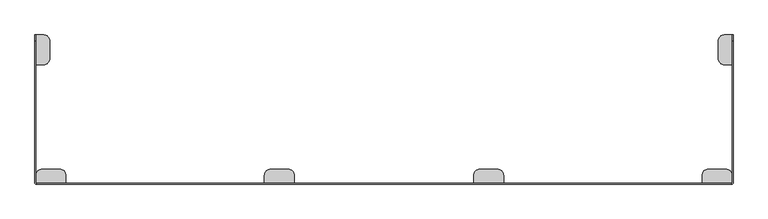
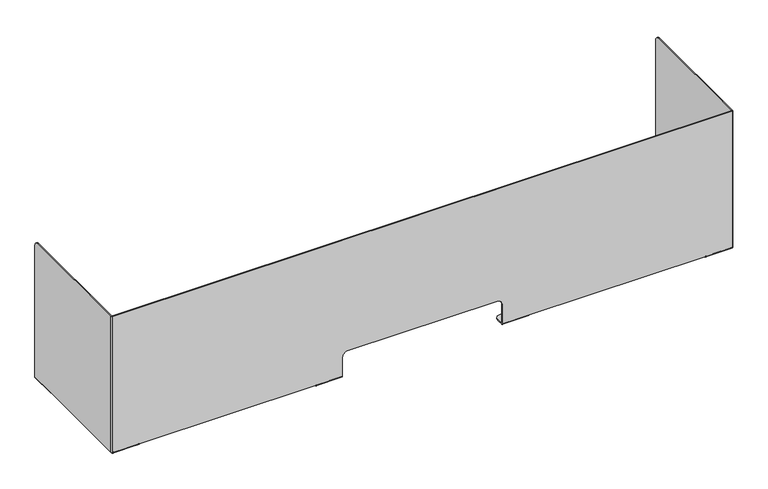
"""IFC4 building model written with IfcOpenShell, lengths in millimetres: furniture geometry, Geiger_GeigerOneCasegoods_DesktopMetalPrivacyScreenSideCapsBothEnds : 70.125Wx15Dx15.75H."""

from ifc_helpers import new_model, si_unit, frame, origin, place, context, project, spatial, polyline, circle_curve, source, transform, mapped, element, save
from ifc_brep_helpers import plane_surface, cylinder_surface, revolved_surface, advanced_brep


def furniture_1481e5b9(model_context):
    return source(origin(), model_context, "Body", "AdvancedBrep", [
        advanced_brep(
        [(78.8, 2.0, 2.81), (78.8, 0.0, 2.81), (78.8, 2.794, 0.0), (78.8, 22.125, 0.0), (78.8, 22.125, 2.0), (78.8, 2.889, 2.0), (2.8, 6.4e-06, 2.81), (2.8, 2.0044662, 2.81), (2.8, 2.889, 2.0), (2.8, 22.1306507, 2.0), (2.8, 22.1306507, 0.0), (2.8, 2.794, 0.0), (18.6693493, 38.0, 0.0), (62.925, 38.0, 0.0), (62.925, 38.0, 2.0), (18.6693493, 38.0, 2.0), (2.8, 0.0, 415.41), (2.8, 2.0, 415.41), (2.0, 2.889, 415.41), (2.0, 364.0, 415.41), (0.0, 364.0, 415.41), (0.0, 2.794, 415.41), (1776.2, 2.0, 415.41), (1776.2, 0.0, 415.41), (1779.0, 2.794, 415.41), (1779.0, 364.0, 415.41), (1777.0, 364.0, 415.41), (1777.0, 2.889, 415.41), (0.0, 2.794, 2.81), (0.0, 304.0, 2.81), (2.0, 304.0, 2.81), (2.0, 2.889, 2.81), (1776.2, 6.4e-06, 2.81), (1776.2, 2.0044662, 2.81), (1777.0, 2.889, 2.81), (1777.0, 304.0, 2.81), (1779.0, 304.0, 2.81), (1779.0, 2.794, 2.81), (585.0, 2.0, 2.81), (585.0, 0.0, 2.81), (1194.0, 2.0, 2.81), (1700.2, 2.0, 2.81), (1700.2, 0.0, 2.81), (1194.0, 0.0, 2.81), (1102.125, 0.0, 76.11), (1118.0, 0.0, 60.235), (1118.0, 0.0, 2.81), (1776.2, 0.0, 415.81), (2.8, 0.0, 415.81), (661.0, 0.0, 2.794), (661.0, 0.0, 60.235), (676.875, 0.0, 76.11), (0.0, 380.0, 399.41), (0.0, 380.0, 2.81), (22.1306507, 380.0, 0.0), (2.794, 380.0, 0.0), (2.0, 380.0, 399.41), (2.0, 380.0, 2.81), (2.889, 380.0, 2.0), (22.1306507, 380.0, 2.0), (676.875, 2.0, 76.11), (661.0, 2.0, 60.235), (661.0, 2.0, 2.81), (2.8, 2.0, 415.81), (1776.2, 2.0, 415.81), (1118.0, 2.0, 2.889), (1118.0, 2.0, 60.235), (1102.125, 2.0, 76.11), (1777.0, 380.0, 399.41), (1777.0, 380.0, 2.81), (1779.0, 380.0, 399.41), (1779.0, 380.0, 2.81), (1776.206, 380.0, 0.0), (1756.8693493, 380.0, 0.0), (1756.8693493, 380.0, 2.0), (1776.111, 380.0, 2.0), (1118.0, 2.889, 2.0), (1118.0, 22.125, 2.0), (1118.0, 22.125, 0.0), (1118.0, 2.794, 0.0), (661.0, 2.794, 0.0), (661.0, 22.125, 0.0), (661.0, 22.125, 2.0), (661.0, 2.889, 2.0), (2.889, 304.0, 2.0), (22.125, 304.0, 2.0), (38.0, 319.875, 2.0), (38.0, 364.1306507, 2.0), (22.125, 304.0, 0.0), (2.794, 304.0, 0.0), (38.0, 364.1306507, 0.0), (38.0, 319.875, 0.0), (585.0, 2.889, 2.0), (585.0, 22.1306507, 2.0), (585.0, 22.1306507, 0.0), (585.0, 2.794, 0.0), (600.8693493, 38.0, 0.0), (645.125, 38.0, 0.0), (645.125, 38.0, 2.0), (600.8693493, 38.0, 2.0), (1194.0, 2.794, 0.0), (1194.0, 22.1306507, 0.0), (1194.0, 22.1306507, 2.0), (1194.0, 2.889, 2.0), (1133.875, 38.0, 0.0), (1178.1306507, 38.0, 0.0), (1178.1306507, 38.0, 2.0), (1133.875, 38.0, 2.0), (1700.2, 2.889, 2.0), (1700.2, 22.125, 2.0), (1700.2, 22.125, 0.0), (1700.2, 2.794, 0.0), (1776.2, 2.794, 0.0), (1776.2, 22.1306507, 0.0), (1776.2, 22.1306507, 2.0), (1776.2, 2.889, 2.0), (1716.075, 38.0, 0.0), (1760.3306507, 38.0, 0.0), (1760.3306507, 38.0, 2.0), (1716.075, 38.0, 2.0), (1776.111, 304.0, 2.0), (1756.875, 304.0, 2.0), (1756.875, 304.0, 0.0), (1776.206, 304.0, 0.0), (1741.0, 319.875, 0.0), (1741.0, 364.1306507, 0.0), (1741.0, 364.1306507, 2.0), (1741.0, 319.875, 2.0)],
        [
            (0, 1),
            (1, 2, circle_curve(frame((78.8, 2.794, 2.794), z_axis=(1.0, 0.0, 0.0), x_axis=(0.0, -1.0, 0.0)), 2.794)),
            (2, 3),
            (3, 4),
            (4, 5),
            (5, 0, circle_curve(frame((78.8, 2.889, 2.889), z_axis=(-1.0, 0.0, 0.0), x_axis=(0.0, -1.0, 0.0)), 0.889)),
            (6, 7),
            (7, 8, circle_curve(frame((2.8, 2.889, 2.889), z_axis=(1.0, 0.0, 0.0), x_axis=(0.0, -1.0, 0.0)), 0.889)),
            (8, 9),
            (9, 10),
            (10, 11),
            (11, 6, circle_curve(frame((2.8, 2.794, 2.794), z_axis=(-1.0, 0.0, 0.0), x_axis=(0.0, -1.0, 0.0)), 2.794)),
            (1, 6),
            (11, 2),
            (10, 12, circle_curve(frame((18.6693493, 22.1306507, 0.0), z_axis=(0.0, 0.0, -1.0), x_axis=(0.0, 1.0, 0.0)), 15.8693493)),
            (12, 13),
            (13, 3, circle_curve(frame((62.925, 22.125, 0.0), z_axis=(0.0, 0.0, -1.0), x_axis=(0.0, 1.0, 0.0)), 15.875)),
            (4, 14, circle_curve(frame((62.925, 22.125, 2.0), z_axis=(0.0, 0.0, 1.0), x_axis=(0.0, 1.0, 0.0)), 15.875)),
            (14, 15),
            (15, 9, circle_curve(frame((18.6693493, 22.1306507, 2.0), z_axis=(0.0, 0.0, 1.0), x_axis=(0.0, 1.0, 0.0)), 15.8693493)),
            (8, 5),
            (7, 0),
            (15, 12),
            (14, 13),
            (16, 17),
            (17, 18, circle_curve(frame((2.889, 2.889, 415.41), z_axis=(0.0, 0.0, -1.0), x_axis=(-1.0, 0.0, 0.0)), 0.889)),
            (18, 19),
            (19, 20),
            (20, 21),
            (21, 16, circle_curve(frame((2.794, 2.794, 415.41), z_axis=(0.0, 0.0, 1.0), x_axis=(-1.0, 0.0, 0.0)), 2.794)),
            (22, 23),
            (23, 24, circle_curve(frame((1776.206, 2.794, 415.41), z_axis=(0.0, 0.0, 1.0), x_axis=(-1.0, 0.0, 0.0)), 2.794)),
            (24, 25),
            (25, 26),
            (26, 27),
            (27, 22, circle_curve(frame((1776.111, 2.889, 415.41), z_axis=(0.0, 0.0, -1.0), x_axis=(-1.0, 0.0, 0.0)), 0.889)),
            (6, 28, circle_curve(frame((2.794, 2.794, 2.81), z_axis=(0.0, 0.0, -1.0), x_axis=(-1.0, 0.0, 0.0)), 2.794)),
            (28, 29),
            (29, 30),
            (30, 31),
            (31, 7, circle_curve(frame((2.889, 2.889, 2.81), z_axis=(0.0, 0.0, 1.0), x_axis=(-1.0, 0.0, 0.0)), 0.889)),
            (32, 33),
            (33, 34, circle_curve(frame((1776.111, 2.889, 2.81), z_axis=(0.0, 0.0, 1.0), x_axis=(-1.0, 0.0, 0.0)), 0.889)),
            (34, 35),
            (35, 36),
            (36, 37),
            (37, 32, circle_curve(frame((1776.206, 2.794, 2.81), z_axis=(0.0, 0.0, -1.0), x_axis=(-1.0, 0.0, 0.0)), 2.794)),
            (0, 38),
            (38, 39),
            (39, 1),
            (40, 41),
            (41, 42),
            (42, 43),
            (43, 40),
            (44, 45, circle_curve(frame((1102.125, 0.0, 60.235), z_axis=(0.0, 1.0, 0.0), x_axis=(-1.0, 0.0, 0.0)), 15.875)),
            (45, 46),
            (46, 43),
            (42, 32),
            (32, 23),
            (23, 47),
            (47, 48),
            (48, 16),
            (16, 6),
            (39, 49),
            (49, 50),
            (50, 51, circle_curve(frame((676.875, 0.0, 60.235), z_axis=(0.0, 1.0, 0.0), x_axis=(-1.0, 0.0, 0.0)), 15.875)),
            (51, 44),
            (21, 28),
            (20, 52, circle_curve(frame((0.0, 364.0, 399.41), z_axis=(-1.0, 0.0, 0.0), x_axis=(0.0, 1.0, 0.0)), 16.0)),
            (52, 53),
            (53, 29),
            (54, 55),
            (55, 53, circle_curve(frame((2.794, 380.0, 2.794), z_axis=(0.0, 1.0, 0.0), x_axis=(-1.0, 0.0, 0.0)), 2.794)),
            (52, 56),
            (56, 57),
            (57, 58, circle_curve(frame((2.889, 380.0, 2.889), z_axis=(0.0, -1.0, 0.0), x_axis=(-1.0, 0.0, 0.0)), 0.889)),
            (58, 59),
            (59, 54),
            (30, 57),
            (56, 19, circle_curve(frame((2.0, 364.0, 399.41), z_axis=(1.0, 0.0, 0.0), x_axis=(0.0, 1.0, 0.0)), 16.0)),
            (18, 31),
            (17, 7),
            (60, 61, circle_curve(frame((676.875, 2.0, 60.235), z_axis=(0.0, -1.0, 0.0), x_axis=(-1.0, 0.0, 0.0)), 15.875)),
            (61, 62),
            (62, 38),
            (17, 63),
            (63, 64),
            (64, 22),
            (22, 33),
            (33, 41),
            (40, 65),
            (65, 66),
            (66, 67, circle_curve(frame((1102.125, 2.0, 60.235), z_axis=(0.0, -1.0, 0.0), x_axis=(-1.0, 0.0, 0.0)), 15.875)),
            (67, 60),
            (27, 34),
            (26, 68, circle_curve(frame((1777.0, 364.0, 399.41), z_axis=(-1.0, 0.0, 0.0), x_axis=(0.0, 1.0, 0.0)), 16.0)),
            (68, 69),
            (69, 35),
            (68, 70),
            (70, 71),
            (71, 72, circle_curve(frame((1776.206, 380.0, 2.794), z_axis=(0.0, 1.0, 0.0), x_axis=(1.0, 0.0, 0.0)), 2.794)),
            (72, 73),
            (73, 74),
            (74, 75),
            (75, 69, circle_curve(frame((1776.111, 380.0, 2.889), z_axis=(0.0, -1.0, 0.0), x_axis=(1.0, 0.0, 0.0)), 0.889)),
            (36, 71),
            (70, 25, circle_curve(frame((1779.0, 364.0, 399.41), z_axis=(1.0, 0.0, 0.0), x_axis=(0.0, 1.0, 0.0)), 16.0)),
            (24, 37),
            (51, 60),
            (67, 44),
            (66, 45),
            (65, 76, circle_curve(frame((1118.0, 2.889, 2.889), z_axis=(1.0, 0.0, 0.0), x_axis=(0.0, -1.0, 0.0)), 0.889)),
            (76, 77),
            (77, 78),
            (78, 79),
            (79, 46, circle_curve(frame((1118.0, 2.794, 2.794), z_axis=(-1.0, 0.0, 0.0), x_axis=(0.0, -1.0, 0.0)), 2.794)),
            (49, 80, circle_curve(frame((661.0, 2.794, 2.794), z_axis=(1.0, 0.0, 0.0), x_axis=(0.0, -1.0, 0.0)), 2.794)),
            (80, 81),
            (81, 82),
            (82, 83),
            (83, 62, circle_curve(frame((661.0, 2.889, 2.889), z_axis=(-1.0, 0.0, 0.0), x_axis=(0.0, -1.0, 0.0)), 0.889)),
            (61, 50),
            (58, 84),
            (84, 85),
            (85, 86, circle_curve(frame((22.125, 319.875, 2.0), z_axis=(0.0, 0.0, 1.0), x_axis=(1.0, 0.0, 0.0)), 15.875)),
            (86, 87),
            (87, 59, circle_curve(frame((22.1306507, 364.1306507, 2.0), z_axis=(0.0, 0.0, 1.0), x_axis=(1.0, 0.0, 0.0)), 15.8693493)),
            (88, 89),
            (89, 55),
            (54, 90, circle_curve(frame((22.1306507, 364.1306507, 0.0), z_axis=(0.0, 0.0, -1.0), x_axis=(1.0, 0.0, 0.0)), 15.8693493)),
            (90, 91),
            (91, 88, circle_curve(frame((22.125, 319.875, 0.0), z_axis=(0.0, 0.0, -1.0), x_axis=(1.0, 0.0, 0.0)), 15.875)),
            (87, 90),
            (86, 91),
            (85, 88),
            (84, 30, circle_curve(frame((2.889, 304.0, 2.889), z_axis=(0.0, 1.0, 0.0), x_axis=(-1.0, 0.0, 0.0)), 0.889)),
            (29, 89, circle_curve(frame((2.794, 304.0, 2.794), z_axis=(0.0, -1.0, 0.0), x_axis=(-1.0, 0.0, 0.0)), 2.794)),
            (38, 92, circle_curve(frame((585.0, 2.889, 2.889), z_axis=(1.0, 0.0, 0.0), x_axis=(0.0, -1.0, 0.0)), 0.889)),
            (92, 93),
            (93, 94),
            (94, 95),
            (95, 39, circle_curve(frame((585.0, 2.794, 2.794), z_axis=(-1.0, 0.0, 0.0), x_axis=(0.0, -1.0, 0.0)), 2.794)),
            (95, 80),
            (94, 96, circle_curve(frame((600.8693493, 22.1306507, 0.0), z_axis=(0.0, 0.0, -1.0), x_axis=(0.0, 1.0, 0.0)), 15.8693493)),
            (96, 97),
            (97, 81, circle_curve(frame((645.125, 22.125, 0.0), z_axis=(0.0, 0.0, -1.0), x_axis=(0.0, 1.0, 0.0)), 15.875)),
            (82, 98, circle_curve(frame((645.125, 22.125, 2.0), z_axis=(0.0, 0.0, 1.0), x_axis=(0.0, 1.0, 0.0)), 15.875)),
            (98, 99),
            (99, 93, circle_curve(frame((600.8693493, 22.1306507, 2.0), z_axis=(0.0, 0.0, 1.0), x_axis=(0.0, 1.0, 0.0)), 15.8693493)),
            (92, 83),
            (99, 96),
            (98, 97),
            (43, 100, circle_curve(frame((1194.0, 2.794, 2.794), z_axis=(1.0, 0.0, 0.0), x_axis=(0.0, -1.0, 0.0)), 2.794)),
            (100, 101),
            (101, 102),
            (102, 103),
            (103, 40, circle_curve(frame((1194.0, 2.889, 2.889), z_axis=(-1.0, 0.0, 0.0), x_axis=(0.0, -1.0, 0.0)), 0.889)),
            (79, 100),
            (78, 104, circle_curve(frame((1133.875, 22.125, 0.0), z_axis=(0.0, 0.0, -1.0), x_axis=(0.0, 1.0, 0.0)), 15.875)),
            (104, 105),
            (105, 101, circle_curve(frame((1178.1306507, 22.1306507, 0.0), z_axis=(0.0, 0.0, -1.0), x_axis=(0.0, 1.0, 0.0)), 15.8693493)),
            (102, 106, circle_curve(frame((1178.1306507, 22.1306507, 2.0), z_axis=(0.0, 0.0, 1.0), x_axis=(0.0, 1.0, 0.0)), 15.8693493)),
            (106, 107),
            (107, 77, circle_curve(frame((1133.875, 22.125, 2.0), z_axis=(0.0, 0.0, 1.0), x_axis=(0.0, 1.0, 0.0)), 15.875)),
            (76, 103),
            (105, 106),
            (104, 107),
            (41, 108, circle_curve(frame((1700.2, 2.889, 2.889), z_axis=(1.0, 0.0, 0.0), x_axis=(0.0, -1.0, 0.0)), 0.889)),
            (108, 109),
            (109, 110),
            (110, 111),
            (111, 42, circle_curve(frame((1700.2, 2.794, 2.794), z_axis=(-1.0, 0.0, 0.0), x_axis=(0.0, -1.0, 0.0)), 2.794)),
            (32, 112, circle_curve(frame((1776.2, 2.794, 2.794), z_axis=(1.0, 0.0, 0.0), x_axis=(0.0, -1.0, 0.0)), 2.794)),
            (112, 113),
            (113, 114),
            (114, 115),
            (115, 33, circle_curve(frame((1776.2, 2.889, 2.889), z_axis=(-1.0, 0.0, 0.0), x_axis=(0.0, -1.0, 0.0)), 0.889)),
            (111, 112),
            (110, 116, circle_curve(frame((1716.075, 22.125, 0.0), z_axis=(0.0, 0.0, -1.0), x_axis=(0.0, 1.0, 0.0)), 15.875)),
            (116, 117),
            (117, 113, circle_curve(frame((1760.3306507, 22.1306507, 0.0), z_axis=(0.0, 0.0, -1.0), x_axis=(0.0, 1.0, 0.0)), 15.8693493)),
            (114, 118, circle_curve(frame((1760.3306507, 22.1306507, 2.0), z_axis=(0.0, 0.0, 1.0), x_axis=(0.0, 1.0, 0.0)), 15.8693493)),
            (118, 119),
            (119, 109, circle_curve(frame((1716.075, 22.125, 2.0), z_axis=(0.0, 0.0, 1.0), x_axis=(0.0, 1.0, 0.0)), 15.875)),
            (108, 115),
            (117, 118),
            (116, 119),
            (35, 120, circle_curve(frame((1776.111, 304.0, 2.889), z_axis=(0.0, 1.0, 0.0), x_axis=(1.0, 0.0, 0.0)), 0.889)),
            (120, 121),
            (121, 122),
            (122, 123),
            (123, 36, circle_curve(frame((1776.206, 304.0, 2.794), z_axis=(0.0, -1.0, 0.0), x_axis=(1.0, 0.0, 0.0)), 2.794)),
            (123, 72),
            (122, 124, circle_curve(frame((1756.875, 319.875, 0.0), z_axis=(0.0, 0.0, -1.0), x_axis=(-1.0, 0.0, 0.0)), 15.875)),
            (124, 125),
            (125, 73, circle_curve(frame((1756.8693493, 364.1306507, 0.0), z_axis=(0.0, 0.0, -1.0), x_axis=(-1.0, 0.0, 0.0)), 15.8693493)),
            (74, 126, circle_curve(frame((1756.8693493, 364.1306507, 2.0), z_axis=(0.0, 0.0, 1.0), x_axis=(-1.0, 0.0, 0.0)), 15.8693493)),
            (126, 127),
            (127, 121, circle_curve(frame((1756.875, 319.875, 2.0), z_axis=(0.0, 0.0, 1.0), x_axis=(-1.0, 0.0, 0.0)), 15.875)),
            (120, 75),
            (125, 126),
            (124, 127),
            (63, 48),
            (47, 64),
        ],
        [
            plane_surface(frame((78.8, 0.0, 2.794), z_axis=(1.0, 0.0, 0.0), x_axis=(0.0, 0.0, 1.0))),
            plane_surface(frame((2.8, 0.0, 2.794), z_axis=(-1.0, 0.0, 0.0), x_axis=(0.0, 0.0, -1.0))),
            cylinder_surface(frame((78.8, 2.794, 2.794), z_axis=(-1.0, 0.0, 0.0), x_axis=(0.0, -1.0, 0.0)), 2.794),
            plane_surface(frame((2.8, 2.794, 0.0), z_axis=(0.0, 0.0, -1.0), x_axis=(1.0, 0.0, 0.0))),
            plane_surface(frame((2.8, 5.08, 2.0), z_axis=(0.0, 0.0, 1.0), x_axis=(1.0, 0.0, 0.0))),
            revolved_surface(polyline([(78.8, 1.9999999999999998, 2.889), (2.799999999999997, 1.9999999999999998, 2.889)]), (78.8, 2.889, 2.889), (1.0, 0.0, 0.0)),
            cylinder_surface(frame((18.6693493, 22.1306507, 0.0), z_axis=(0.0, 0.0, 1.0), x_axis=(0.0, 1.0, 0.0)), 15.8693493),
            plane_surface(frame((18.6693493, 38.0, 2.0), z_axis=(0.0, 1.0, 0.0), x_axis=(0.0, 0.0, -1.0))),
            cylinder_surface(frame((62.925, 22.125, 0.0), z_axis=(0.0, 0.0, 1.0), x_axis=(0.0, 1.0, 0.0)), 15.875),
            plane_surface(frame((-48.0637377, 0.0, 415.41), z_axis=(0.0, 0.0, 1.0), x_axis=(-1.0, 0.0, 0.0))),
            plane_surface(frame((-48.0637377, 0.0, 2.81), z_axis=(0.0, 0.0, -1.0), x_axis=(1.0, 0.0, 0.0))),
            plane_surface(frame((1776.206, 0.0, 415.41), z_axis=(0.0, -1.0, 0.0), x_axis=(0.0, 0.0, -1.0))),
            cylinder_surface(frame((2.794, 2.794, 2.81), z_axis=(0.0, 0.0, 1.0), x_axis=(-1.0, 0.0, 0.0)), 2.794),
            plane_surface(frame((0.0, 2.794, 415.41), z_axis=(-1.0, 0.0, 0.0), x_axis=(0.0, 0.0, -1.0))),
            plane_surface(frame((0.0, 380.0, 415.41), z_axis=(0.0, 1.0, 0.0), x_axis=(0.0, 0.0, -1.0))),
            plane_surface(frame((2.0, 380.0, 415.41), z_axis=(1.0, 0.0, 0.0), x_axis=(0.0, 0.0, -1.0))),
            revolved_surface(polyline([(1.9999999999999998, 2.889, 2.81), (1.9999999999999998, 2.889, 415.41)]), (2.889, 2.889, 2.81), (0.0, 0.0, -1.0)),
            plane_surface(frame((2.889, 2.0, 415.41), z_axis=(0.0, 1.0, 0.0), x_axis=(0.0, 0.0, -1.0))),
            revolved_surface(polyline([(1775.2220000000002, 2.889, 2.81), (1775.2220000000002, 2.889, 415.41)]), (1776.111, 2.889, 2.81), (0.0, 0.0, -1.0)),
            plane_surface(frame((1777.0, 2.889, 415.41), z_axis=(-1.0, 0.0, 0.0), x_axis=(0.0, 0.0, -1.0))),
            plane_surface(frame((1777.0, 380.0, 415.41), z_axis=(0.0, 1.0, 0.0), x_axis=(0.0, 0.0, -1.0))),
            plane_surface(frame((1779.0, 380.0, 415.41), z_axis=(1.0, 0.0, 0.0), x_axis=(0.0, 0.0, -1.0))),
            cylinder_surface(frame((1776.206, 2.794, 2.81), z_axis=(0.0, 0.0, 1.0), x_axis=(-1.0, 0.0, 0.0)), 2.794),
            plane_surface(frame((676.875, 0.0, 76.11), z_axis=(0.0, 0.0, -1.0), x_axis=(0.0, 1.0, 0.0))),
            revolved_surface(polyline([(1086.25, 0.0, 60.235), (1086.25, 2.0, 60.235)]), (1102.125, 2.0, 60.235), (0.0, -1.0, 0.0)),
            plane_surface(frame((1118.0, 0.0, 60.235), z_axis=(-1.0, 0.0, 0.0), x_axis=(0.0, 1.0, 0.0))),
            plane_surface(frame((661.0, 0.0, 0.0), z_axis=(1.0, 0.0, 0.0), x_axis=(0.0, 1.0, 0.0))),
            revolved_surface(polyline([(661.0, 0.0, 60.235), (661.0, 2.0, 60.235)]), (676.875, 2.0, 60.235), (0.0, -1.0, 0.0)),
            plane_surface(frame((5.08, 304.0, 2.0), z_axis=(0.0, 0.0, 1.0), x_axis=(0.0, 1.0, 0.0))),
            plane_surface(frame((5.08, 304.0, 0.0), z_axis=(0.0, 0.0, -1.0), x_axis=(0.0, -1.0, 0.0))),
            cylinder_surface(frame((22.1306507, 364.1306507, 0.0), z_axis=(0.0, 0.0, 1.0), x_axis=(1.0, 0.0, 0.0)), 15.8693493),
            plane_surface(frame((38.0, 364.1306507, 2.0), z_axis=(1.0, 0.0, 0.0), x_axis=(0.0, 0.0, -1.0))),
            cylinder_surface(frame((22.125, 319.875, 0.0), z_axis=(0.0, 0.0, 1.0), x_axis=(1.0, 0.0, 0.0)), 15.875),
            plane_surface(frame((22.125, 304.0, 2.0), z_axis=(0.0, -1.0, 0.0), x_axis=(0.0, 0.0, -1.0))),
            cylinder_surface(frame((2.794, 304.0, 2.794), z_axis=(0.0, 1.0, 0.0), x_axis=(-1.0, 0.0, 0.0)), 2.794),
            revolved_surface(polyline([(1.9999999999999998, 304.0, 2.889), (1.9999999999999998, 380.0, 2.889)]), (2.889, 304.0, 2.889), (0.0, -1.0, 0.0)),
            plane_surface(frame((585.0, 0.0, 2.794), z_axis=(-1.0, 0.0, 0.0), x_axis=(0.0, 0.0, -1.0))),
            cylinder_surface(frame((661.0, 2.794, 2.794), z_axis=(-1.0, 0.0, 0.0), x_axis=(0.0, -1.0, 0.0)), 2.794),
            plane_surface(frame((585.0, 2.794, 0.0), z_axis=(0.0, 0.0, -1.0), x_axis=(1.0, 0.0, 0.0))),
            plane_surface(frame((585.0, 5.08, 2.0), z_axis=(0.0, 0.0, 1.0), x_axis=(1.0, 0.0, 0.0))),
            revolved_surface(polyline([(661.0, 1.9999999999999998, 2.889), (585.0, 1.9999999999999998, 2.889)]), (661.0, 2.889, 2.889), (1.0, 0.0, 0.0)),
            cylinder_surface(frame((600.8693493, 22.1306507, 0.0), z_axis=(0.0, 0.0, 1.0), x_axis=(0.0, 1.0, 0.0)), 15.8693493),
            plane_surface(frame((600.8693493, 38.0, 2.0), z_axis=(0.0, 1.0, 0.0), x_axis=(0.0, 0.0, -1.0))),
            cylinder_surface(frame((645.125, 22.125, 0.0), z_axis=(0.0, 0.0, 1.0), x_axis=(0.0, 1.0, 0.0)), 15.875),
            plane_surface(frame((1194.0, 0.0, 415.81), z_axis=(1.0, 0.0, 0.0), x_axis=(0.0, 0.0, 1.0))),
            cylinder_surface(frame((1118.0, 2.794, 2.794), z_axis=(1.0, 0.0, 0.0), x_axis=(0.0, -1.0, 0.0)), 2.794),
            plane_surface(frame((1194.0, 5.08, 0.0), z_axis=(0.0, 0.0, -1.0), x_axis=(-1.0, 0.0, 0.0))),
            plane_surface(frame((1194.0, 2.889, 2.0), z_axis=(0.0, 0.0, 1.0), x_axis=(-1.0, 0.0, 0.0))),
            revolved_surface(polyline([(1118.0, 1.9999999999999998, 2.889), (1194.0, 1.9999999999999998, 2.889)]), (1118.0, 2.889, 2.889), (-1.0, 0.0, 0.0)),
            cylinder_surface(frame((1178.1306507, 22.1306507, 0.0), z_axis=(0.0, 0.0, 1.0), x_axis=(0.0, 1.0, 0.0)), 15.8693493),
            plane_surface(frame((1133.875, 38.0, 2.0), z_axis=(0.0, 1.0, 0.0), x_axis=(0.0, 0.0, -1.0))),
            cylinder_surface(frame((1133.875, 22.125, 0.0), z_axis=(0.0, 0.0, 1.0), x_axis=(0.0, 1.0, 0.0)), 15.875),
            plane_surface(frame((1700.2, 0.0, 415.81), z_axis=(-1.0, 0.0, 0.0), x_axis=(0.0, 0.0, -1.0))),
            plane_surface(frame((1776.2, 0.0, 415.81), z_axis=(1.0, 0.0, 0.0), x_axis=(0.0, 0.0, 1.0))),
            cylinder_surface(frame((1700.2, 2.794, 2.794), z_axis=(1.0, 0.0, 0.0), x_axis=(0.0, -1.0, 0.0)), 2.794),
            plane_surface(frame((1776.2, 5.08, 0.0), z_axis=(0.0, 0.0, -1.0), x_axis=(-1.0, 0.0, 0.0))),
            plane_surface(frame((1776.2, 2.889, 2.0), z_axis=(0.0, 0.0, 1.0), x_axis=(-1.0, 0.0, 0.0))),
            revolved_surface(polyline([(1700.2, 1.9999999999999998, 2.889), (1776.2, 1.9999999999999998, 2.889)]), (1700.2, 2.889, 2.889), (-1.0, 0.0, 0.0)),
            cylinder_surface(frame((1760.3306507, 22.1306507, 0.0), z_axis=(0.0, 0.0, 1.0), x_axis=(0.0, 1.0, 0.0)), 15.8693493),
            plane_surface(frame((1716.075, 38.0, 2.0), z_axis=(0.0, 1.0, 0.0), x_axis=(0.0, 0.0, -1.0))),
            cylinder_surface(frame((1716.075, 22.125, 0.0), z_axis=(0.0, 0.0, 1.0), x_axis=(0.0, 1.0, 0.0)), 15.875),
            plane_surface(frame((1779.0, 304.0, 415.81), z_axis=(0.0, -1.0, 0.0), x_axis=(0.0, 0.0, -1.0))),
            cylinder_surface(frame((1776.206, 304.0, 2.794), z_axis=(0.0, 1.0, 0.0), x_axis=(1.0, 0.0, 0.0)), 2.794),
            plane_surface(frame((1773.92, 380.0, 0.0), z_axis=(0.0, 0.0, -1.0), x_axis=(0.0, -1.0, 0.0))),
            plane_surface(frame((1776.111, 380.0, 2.0), z_axis=(0.0, 0.0, 1.0), x_axis=(0.0, -1.0, 0.0))),
            revolved_surface(polyline([(1777.0, 304.0, 2.889), (1777.0, 380.0, 2.889)]), (1776.111, 304.0, 2.889), (0.0, -1.0, 0.0)),
            cylinder_surface(frame((1756.8693493, 364.1306507, 0.0), z_axis=(0.0, 0.0, 1.0), x_axis=(-1.0, 0.0, 0.0)), 15.8693493),
            plane_surface(frame((1741.0, 319.875, 2.0), z_axis=(-1.0, 0.0, 0.0), x_axis=(0.0, 0.0, -1.0))),
            cylinder_surface(frame((1756.875, 319.875, 0.0), z_axis=(0.0, 0.0, 1.0), x_axis=(-1.0, 0.0, 0.0)), 15.875),
            cylinder_surface(frame((0.0, 364.0, 399.41), z_axis=(-1.0, 0.0, 0.0), x_axis=(0.0, 1.0, 0.0)), 16.0),
            cylinder_surface(frame((1779.0, 364.0, 399.41), z_axis=(1.0, 0.0, 0.0), x_axis=(0.0, 1.0, 0.0)), 16.0),
            plane_surface(frame((1776.2, 2.0, 415.81), z_axis=(0.0, 0.0, 1.0), x_axis=(0.0, -1.0, 0.0))),
            plane_surface(frame((1776.2, 2.0, 415.81), z_axis=(1.0, 0.0, 0.0), x_axis=(0.0, 0.0, -1.0))),
            plane_surface(frame((2.8, 0.0, 415.81), z_axis=(-1.0, 0.0, 0.0), x_axis=(0.0, 0.0, -1.0))),
        ],
        [
            (0, [[1, 2, 3, 4, 5, 6]]),
            (1, [[7, 8, 9, 10, 11, 12]]),
            (2, [[13, -12, 14, -2]]),
            (3, [[-11, 15, 16, 17, -3, -14]]),
            (4, [[-5, 18, 19, 20, -9, 21]]),
            (5, [[-21, -8, 22, -6]]),
            (6, [[23, -15, -10, -20]]),
            (7, [[24, -16, -23, -19]]),
            (8, [[-4, -17, -24, -18]]),
            (9, [[25, 26, 27, 28, 29, 30]]),
            (9, [[31, 32, 33, 34, 35, 36]]),
            (10, [[-7, 37, 38, 39, 40, 41]]),
            (10, [[42, 43, 44, 45, 46, 47]]),
            (10, [[48, 49, 50, -1]]),
            (10, [[51, 52, 53, 54]]),
            (11, [[55, 56, 57, -53, 58, 59, 60, 61, 62, 63, -13, -50, 64, 65, 66, 67]]),
            (12, [[68, -37, -63, -30]]),
            (13, [[-29, 69, 70, 71, -38, -68]]),
            (14, [[72, 73, -70, 74, 75, 76, 77, 78]]),
            (15, [[-40, 79, -75, 80, -27, 81]]),
            (16, [[-41, -81, -26, 82]]),
            (17, [[83, 84, 85, -48, -22, -82, 86, 87, 88, 89, 90, -51, 91, 92, 93, 94]]),
            (18, [[95, -43, -89, -36]]),
            (19, [[-35, 96, 97, 98, -44, -95]]),
            (20, [[-97, 99, 100, 101, 102, 103, 104, 105]]),
            (21, [[-46, 106, -100, 107, -33, 108]]),
            (22, [[-47, -108, -32, -59]]),
            (23, [[-67, 109, -94, 110]]),
            (24, [[-93, 111, -55, -110]]),
            (25, [[-92, 112, 113, 114, 115, 116, -56, -111]]),
            (26, [[-65, 117, 118, 119, 120, 121, -84, 122]]),
            (27, [[-66, -122, -83, -109]]),
            (28, [[-77, 123, 124, 125, 126, 127]]),
            (29, [[128, 129, -72, 130, 131, 132]]),
            (30, [[133, -130, -78, -127]]),
            (31, [[134, -131, -133, -126]]),
            (32, [[135, -132, -134, -125]]),
            (33, [[-124, 136, -39, 137, -128, -135]]),
            (34, [[-71, -73, -129, -137]]),
            (35, [[-123, -76, -79, -136]]),
            (36, [[-49, 138, 139, 140, 141, 142]]),
            (37, [[-64, -142, 143, -117]]),
            (38, [[-141, 144, 145, 146, -118, -143]]),
            (39, [[-120, 147, 148, 149, -139, 150]]),
            (40, [[-150, -138, -85, -121]]),
            (41, [[151, -144, -140, -149]]),
            (42, [[152, -145, -151, -148]]),
            (43, [[-119, -146, -152, -147]]),
            (44, [[-54, 153, 154, 155, 156, 157]]),
            (45, [[158, -153, -57, -116]]),
            (46, [[-115, 159, 160, 161, -154, -158]]),
            (47, [[-156, 162, 163, 164, -113, 165]]),
            (48, [[-91, -157, -165, -112]]),
            (49, [[-155, -161, 166, -162]]),
            (50, [[-166, -160, 167, -163]]),
            (51, [[-167, -159, -114, -164]]),
            (52, [[-52, 168, 169, 170, 171, 172]]),
            (53, [[-42, 173, 174, 175, 176, 177]]),
            (54, [[178, -173, -58, -172]]),
            (55, [[-171, 179, 180, 181, -174, -178]]),
            (56, [[-176, 182, 183, 184, -169, 185]]),
            (57, [[-90, -177, -185, -168]]),
            (58, [[-175, -181, 186, -182]]),
            (59, [[-186, -180, 187, -183]]),
            (60, [[-187, -179, -170, -184]]),
            (61, [[-45, 188, 189, 190, 191, 192]]),
            (62, [[193, -101, -106, -192]]),
            (63, [[-191, 194, 195, 196, -102, -193]]),
            (64, [[-104, 197, 198, 199, -189, 200]]),
            (65, [[-98, -105, -200, -188]]),
            (66, [[-103, -196, 201, -197]]),
            (67, [[-201, -195, 202, -198]]),
            (68, [[-202, -194, -190, -199]]),
            (69, [[-80, -74, -69, -28]]),
            (70, [[-107, -99, -96, -34]]),
            (71, [[-87, 203, -61, 204]]),
            (72, [[-60, -31, -88, -204]]),
            (73, [[-86, -25, -62, -203]]),
        ],
    ),
    ])


if __name__ == "__main__":
    model = new_model("IFC4")
    model_context = context("Model", 3, world=origin())
    ifc_project = project(units=[si_unit("LENGTHUNIT", "METRE", prefix="MILLI")], contexts=[model_context])
    site = spatial("IfcSite", under=ifc_project)
    building = spatial("IfcBuilding", under=site)
    placement = place(None, origin())
    furniture_shape = furniture_1481e5b9(model_context)
    element("IfcFurniture", 1, ObjectType="Geiger_GeigerOneCasegoods_DesktopMetalPrivacyScreenSideCapsBothEnds : 70.125Wx15Dx15.75H", at=placement, inside=building, context=model_context, shape_type="MappedRepresentation", body=[
        mapped(furniture_shape, transform((0.0, 0.0, 0.0), x_axis=(1.0, 0.0, 0.0), y_axis=(0.0, 1.0, 0.0), z_axis=(0.0, 0.0, 1.0))),
    ])
    save(model, "model.ifc")
